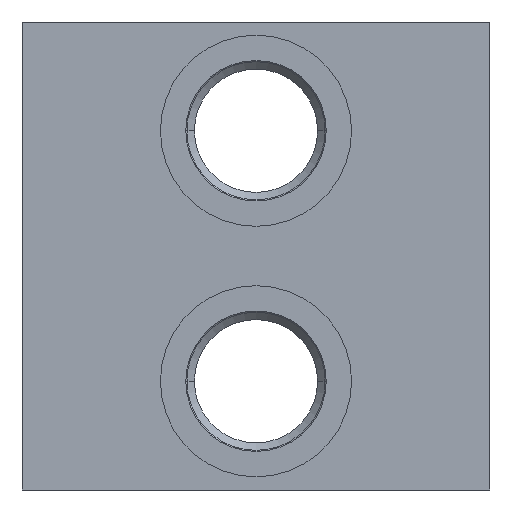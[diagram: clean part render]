
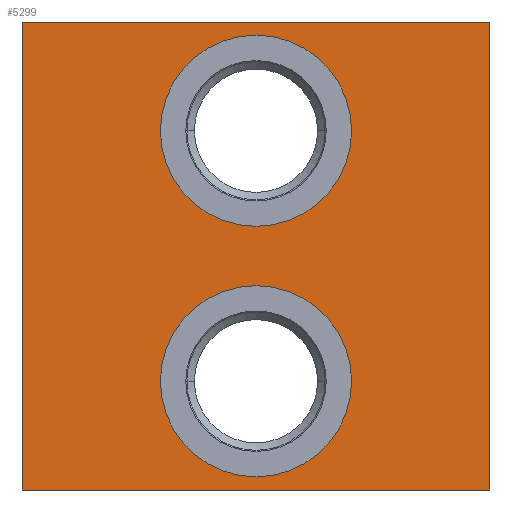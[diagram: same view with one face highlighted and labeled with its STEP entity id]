
A CAD part, left-side view. The second image highlights one B-rep face of the part: STEP entity #5299.
In plain terms, the highlighted planar face has unit normal (-1, 0, 0).
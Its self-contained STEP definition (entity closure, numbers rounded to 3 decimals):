
#30=DIRECTION('',(0.,-1.,0.));
#31=VECTOR('',#30,71.);
#32=CARTESIAN_POINT('',(0.,71.,0.));
#33=LINE('',#32,#31);
#179=DIRECTION('',(0.,0.,-1.));
#180=VECTOR('',#179,71.);
#181=CARTESIAN_POINT('',(0.,0.,0.));
#182=LINE('',#181,#180);
#1122=DIRECTION('',(0.,0.,-1.));
#1123=VECTOR('',#1122,71.);
#1124=CARTESIAN_POINT('',(0.,71.,0.));
#1125=LINE('',#1124,#1123);
#1129=CARTESIAN_POINT('',(0.,35.5,-54.5));
#1130=DIRECTION('',(1.,0.,0.));
#1131=DIRECTION('',(0.,-1.,0.));
#1132=AXIS2_PLACEMENT_3D('',#1129,#1130,#1131);
#1137=CARTESIAN_POINT('',(0.,35.5,-54.5));
#1138=DIRECTION('',(1.,0.,0.));
#1139=DIRECTION('',(0.,1.,0.));
#1140=AXIS2_PLACEMENT_3D('',#1137,#1138,#1139);
#1145=CARTESIAN_POINT('',(0.,35.5,-16.5));
#1146=DIRECTION('',(1.,0.,0.));
#1147=DIRECTION('',(0.,-1.,0.));
#1148=AXIS2_PLACEMENT_3D('',#1145,#1146,#1147);
#1153=CARTESIAN_POINT('',(0.,35.5,-16.5));
#1154=DIRECTION('',(1.,0.,0.));
#1155=DIRECTION('',(0.,1.,0.));
#1156=AXIS2_PLACEMENT_3D('',#1153,#1154,#1155);
#1182=DIRECTION('',(0.,-1.,0.));
#1183=VECTOR('',#1182,71.);
#1184=CARTESIAN_POINT('',(0.,71.,-71.));
#1185=LINE('',#1184,#1183);
#4396=CARTESIAN_POINT('',(0.,0.,0.));
#4398=VERTEX_POINT('',#4396);
#4402=CARTESIAN_POINT('',(0.,71.,0.));
#4403=VERTEX_POINT('',#4402);
#4404=CARTESIAN_POINT('',(0.,0.,-71.));
#4406=VERTEX_POINT('',#4404);
#4410=CARTESIAN_POINT('',(0.,71.,-71.));
#4411=VERTEX_POINT('',#4410);
#4440=CARTESIAN_POINT('',(0.,21.,-54.5));
#4441=CARTESIAN_POINT('',(0.,50.,-54.5));
#4442=VERTEX_POINT('',#4440);
#4443=VERTEX_POINT('',#4441);
#4456=CARTESIAN_POINT('',(0.,21.,-16.5));
#4457=CARTESIAN_POINT('',(0.,50.,-16.5));
#4458=VERTEX_POINT('',#4456);
#4459=VERTEX_POINT('',#4457);
#5275=CARTESIAN_POINT('',(0.,71.,0.));
#5276=DIRECTION('',(-1.,0.,0.));
#5277=DIRECTION('',(0.,-1.,0.));
#5278=AXIS2_PLACEMENT_3D('',#5275,#5276,#5277);
#5279=PLANE('',#5278);
#5280=ORIENTED_EDGE('',*,*,#4943,.T.);
#5281=ORIENTED_EDGE('',*,*,#5017,.T.);
#5283=ORIENTED_EDGE('',*,*,#5282,.F.);
#5284=ORIENTED_EDGE('',*,*,#5104,.F.);
#5285=EDGE_LOOP('',(#5280,#5281,#5283,#5284));
#5286=FACE_OUTER_BOUND('',#5285,.F.);
#5288=ORIENTED_EDGE('',*,*,#5287,.F.);
#5290=ORIENTED_EDGE('',*,*,#5289,.F.);
#5291=EDGE_LOOP('',(#5288,#5290));
#5292=FACE_BOUND('',#5291,.F.);
#5294=ORIENTED_EDGE('',*,*,#5293,.F.);
#5296=ORIENTED_EDGE('',*,*,#5295,.F.);
#5297=EDGE_LOOP('',(#5294,#5296));
#5298=FACE_BOUND('',#5297,.F.);
#1133=CIRCLE('',#1132,14.5);
#1141=CIRCLE('',#1140,14.5);
#1149=CIRCLE('',#1148,14.5);
#1157=CIRCLE('',#1156,14.5);
#4943=EDGE_CURVE('',#4403,#4398,#33,.T.);
#5017=EDGE_CURVE('',#4398,#4406,#182,.T.);
#5104=EDGE_CURVE('',#4403,#4411,#1125,.T.);
#5282=EDGE_CURVE('',#4411,#4406,#1185,.T.);
#5287=EDGE_CURVE('',#4442,#4443,#1133,.T.);
#5289=EDGE_CURVE('',#4443,#4442,#1141,.T.);
#5293=EDGE_CURVE('',#4458,#4459,#1149,.T.);
#5295=EDGE_CURVE('',#4459,#4458,#1157,.T.);
#5299=ADVANCED_FACE('',(#5286,#5292,#5298),#5279,.T.);
